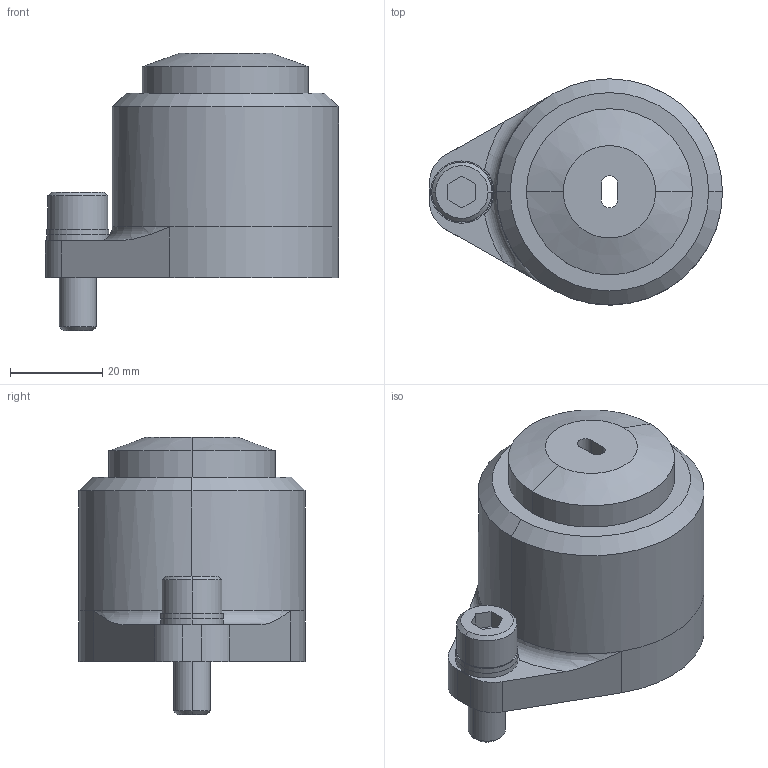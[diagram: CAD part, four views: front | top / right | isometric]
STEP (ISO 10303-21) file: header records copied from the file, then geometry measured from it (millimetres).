
FILE_DESCRIPTION(/* description */ (''),/* implementation_level */ '2;1');
FILE_NAME(/* name */ '3d_spre13-g-p7.00-w3.50-k0_05421_r00.stp',/* time_stamp */ '2011-01-10T14:10:06+09:00',/* author */ ('MISUMI'),/* organization */ (''),/* preprocessor_version */ 'ST-DEVELOPER v11',/* originating_system */ 'UGS - NX 5.0',/* authorisation */ '');
FILE_SCHEMA (('CONFIG_CONTROL_DESIGN'));
Length unit declared in the file: millimetre
Products named in the file (1): 3d_spre13-g-p7.00-w3.50-k0_05421_r00
Bounding box: 63.5 x 49 x 60.1 mm (x, y, z)
Volume: 77550 mm3; surface area: 30809.6 mm2
Topology: 6 solids, 6 shells, 76 faces, 170 edges, 110 vertices
Faces by surface type: cylinder 38, plane 28, cone 8, torus 2
Entity records: 2254 total; most frequent: DIRECTION 408, CARTESIAN_POINT 377, ORIENTED_EDGE 340, EDGE_CURVE 170, AXIS2_PLACEMENT_3D 165, VERTEX_POINT 110, EDGE_LOOP 92, CIRCLE 88
